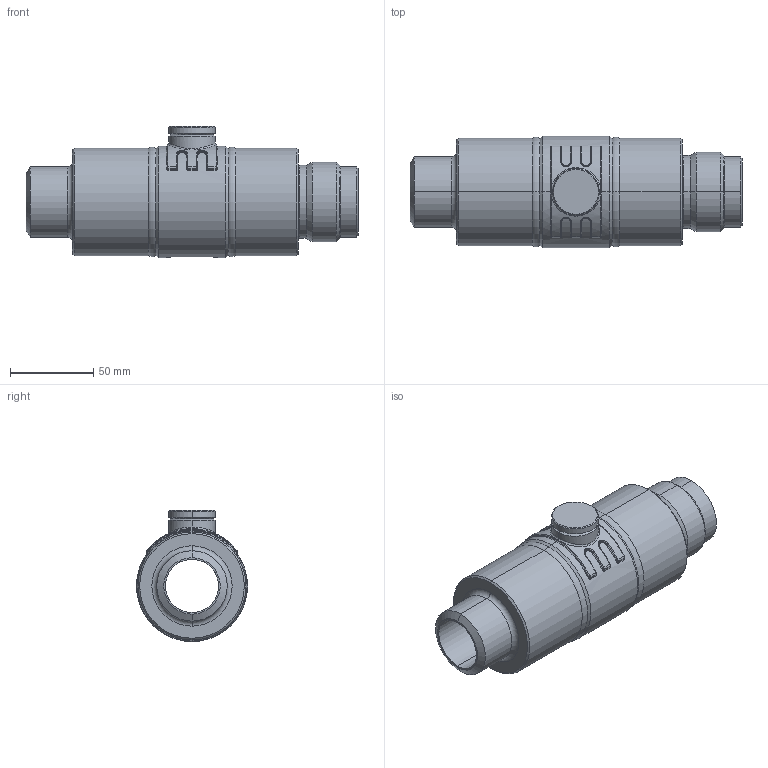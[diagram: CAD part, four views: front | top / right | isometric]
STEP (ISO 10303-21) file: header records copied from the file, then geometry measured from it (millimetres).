
FILE_DESCRIPTION((''),'2;1');
FILE_NAME('KHMO-AB-V-ISKT-032P040','2025-02-11T14:28:04',('jeitlers'),('KLINGER'),'CREO PARAMETRIC BY PTC INC, 2023014','CREO PARAMETRIC BY PTC INC, 2023014','');
FILE_SCHEMA(('CONFIG_CONTROL_DESIGN'));
Length unit declared in the file: millimetre
Products named in the file (1): KHMO-AB-V-ISKT-032P040
Bounding box: 200 x 67 x 79 mm (x, y, z)
Volume: 376106.5 mm3; surface area: 91354.3 mm2
Topology: 2 solids, 2 shells, 405 faces, 867 edges, 489 vertices
Faces by surface type: cylinder 117, torus 92, plane 74, cone 72, bspline 48, sphere 2
Entity records: 19096 total; most frequent: CARTESIAN_POINT 10399, DIRECTION 1956, ORIENTED_EDGE 1730, EDGE_CURVE 865, AXIS2_PLACEMENT_3D 852, CIRCLE 495, VERTEX_POINT 489, EDGE_LOOP 438
